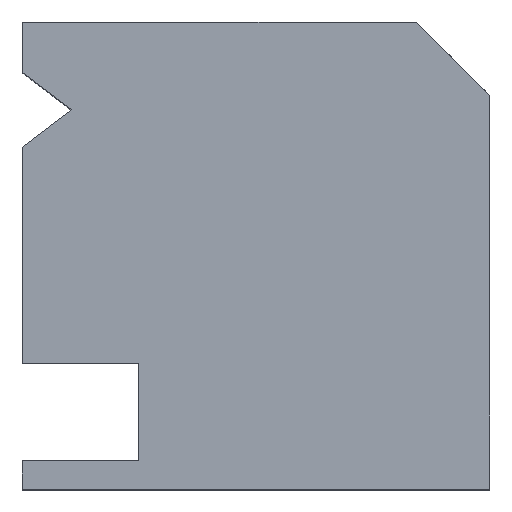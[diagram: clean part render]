
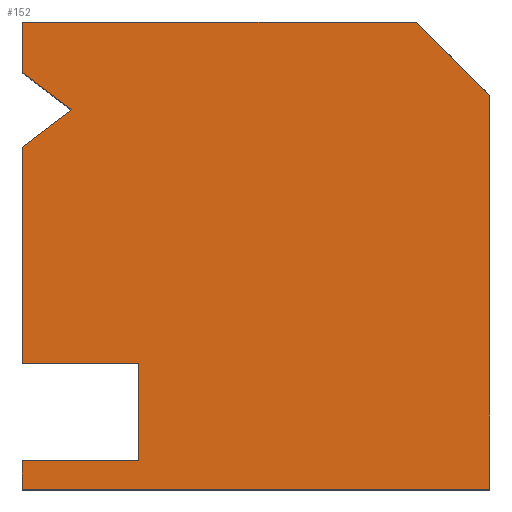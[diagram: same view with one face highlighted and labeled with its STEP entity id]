
A CAD part, top view. The second image highlights one B-rep face of the part: STEP entity #152.
In plain terms, the highlighted planar face has unit normal (0, 0, 1).
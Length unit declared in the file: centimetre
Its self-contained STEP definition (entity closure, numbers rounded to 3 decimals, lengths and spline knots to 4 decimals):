
#11 = VECTOR ( 'NONE', #632, 100. ) ;
#17 = CARTESIAN_POINT ( 'NONE',  ( 1000., 1000., 1000. ) ) ;
#20 = EDGE_CURVE ( 'NONE', #55, #213, #547, .T. ) ;
#34 = ORIENTED_EDGE ( 'NONE', *, *, #370, .T. ) ;
#36 = CARTESIAN_POINT ( 'NONE',  ( 248.9598, 60.6455, 1000. ) ) ;
#55 = VERTEX_POINT ( 'NONE', #183 ) ;
#56 = FACE_OUTER_BOUND ( 'NONE', #332, .T. ) ;
#57 = VERTEX_POINT ( 'NONE', #861 ) ;
#62 = PLANE ( 'NONE',  #907 ) ;
#69 = VECTOR ( 'NONE', #445, 100. ) ;
#92 = EDGE_CURVE ( 'NONE', #132, #954, #846, .T. ) ;
#117 = VERTEX_POINT ( 'NONE', #291 ) ;
#124 = DIRECTION ( 'NONE',  ( 0., -1., 0. ) ) ;
#132 = VERTEX_POINT ( 'NONE', #946 ) ;
#152 = ADVANCED_FACE ( 'NONE', ( #56 ), #62, .T. ) ;
#156 = ORIENTED_EDGE ( 'NONE', *, *, #794, .T. ) ;
#164 = LINE ( 'NONE', #324, #827 ) ;
#165 = ORIENTED_EDGE ( 'NONE', *, *, #668, .T. ) ;
#174 = DIRECTION ( 'NONE',  ( 1., 0., 0. ) ) ;
#177 = CARTESIAN_POINT ( 'NONE',  ( 0., 60.6455, 1000. ) ) ;
#183 = CARTESIAN_POINT ( 'NONE',  ( 0., 269.7926, 1000. ) ) ;
#186 = LINE ( 'NONE', #620, #643 ) ;
#192 = VERTEX_POINT ( 'NONE', #208 ) ;
#208 = CARTESIAN_POINT ( 'NONE',  ( 0., 0., 1000. ) ) ;
#213 = VERTEX_POINT ( 'NONE', #722 ) ;
#214 = LINE ( 'NONE', #514, #342 ) ;
#248 = DIRECTION ( 'NONE',  ( -0.707, 0.707, 0. ) ) ;
#249 = CARTESIAN_POINT ( 'NONE',  ( 0., 732.1818, 1000. ) ) ;
#291 = CARTESIAN_POINT ( 'NONE',  ( 0., 1000., 1000. ) ) ;
#292 = VERTEX_POINT ( 'NONE', #893 ) ;
#300 = ORIENTED_EDGE ( 'NONE', *, *, #464, .T. ) ;
#318 = VERTEX_POINT ( 'NONE', #686 ) ;
#324 = CARTESIAN_POINT ( 'NONE',  ( 0., 0., 1000. ) ) ;
#329 = CARTESIAN_POINT ( 'NONE',  ( 0., 1000., 1000. ) ) ;
#332 = EDGE_LOOP ( 'NONE', ( #800, #674, #425, #665, #589, #156, #34, #300, #165, #857, #367, #837 ) ) ;
#342 = VECTOR ( 'NONE', #124, 100. ) ;
#352 = DIRECTION ( 'NONE',  ( 1., 0., 0. ) ) ;
#363 = VERTEX_POINT ( 'NONE', #249 ) ;
#366 = CARTESIAN_POINT ( 'NONE',  ( 0., 0., 1000. ) ) ;
#367 = ORIENTED_EDGE ( 'NONE', *, *, #933, .T. ) ;
#370 = EDGE_CURVE ( 'NONE', #192, #614, #164, .T. ) ;
#375 = VECTOR ( 'NONE', #779, 100. ) ;
#391 = DIRECTION ( 'NONE',  ( 0., -1., 0. ) ) ;
#400 = LINE ( 'NONE', #36, #11 ) ;
#406 = CARTESIAN_POINT ( 'NONE',  ( 1000., 0., 1000. ) ) ;
#425 = ORIENTED_EDGE ( 'NONE', *, *, #20, .T. ) ;
#444 = VECTOR ( 'NONE', #391, 100. ) ;
#445 = DIRECTION ( 'NONE',  ( -1., 0., 0. ) ) ;
#458 = VECTOR ( 'NONE', #555, 100. ) ;
#463 = EDGE_CURVE ( 'NONE', #733, #292, #561, .T. ) ;
#464 = EDGE_CURVE ( 'NONE', #614, #57, #850, .T. ) ;
#485 = VECTOR ( 'NONE', #498, 100. ) ;
#498 = DIRECTION ( 'NONE',  ( -1., 0., 0. ) ) ;
#514 = CARTESIAN_POINT ( 'NONE',  ( 0., 1000., 1000. ) ) ;
#543 = DIRECTION ( 'NONE',  ( -0.797, -0.604, 0. ) ) ;
#547 = LINE ( 'NONE', #642, #876 ) ;
#555 = DIRECTION ( 'NONE',  ( 0.797, -0.604, 0. ) ) ;
#559 = LINE ( 'NONE', #615, #816 ) ;
#561 = LINE ( 'NONE', #627, #458 ) ;
#576 = EDGE_CURVE ( 'NONE', #318, #117, #718, .T. ) ;
#589 = ORIENTED_EDGE ( 'NONE', *, *, #92, .T. ) ;
#614 = VERTEX_POINT ( 'NONE', #406 ) ;
#615 = CARTESIAN_POINT ( 'NONE',  ( 0., 732.1818, 1000. ) ) ;
#620 = CARTESIAN_POINT ( 'NONE',  ( 921.6625, 921.6625, 1000. ) ) ;
#627 = CARTESIAN_POINT ( 'NONE',  ( 105.6518, 812.2237, 1000. ) ) ;
#632 = DIRECTION ( 'NONE',  ( 0., -1., 0. ) ) ;
#642 = CARTESIAN_POINT ( 'NONE',  ( 0., 269.7926, 1000. ) ) ;
#643 = VECTOR ( 'NONE', #248, 100. ) ;
#647 = CARTESIAN_POINT ( 'NONE',  ( 0., 60.6455, 1000. ) ) ;
#665 = ORIENTED_EDGE ( 'NONE', *, *, #738, .T. ) ;
#668 = EDGE_CURVE ( 'NONE', #57, #318, #186, .T. ) ;
#674 = ORIENTED_EDGE ( 'NONE', *, *, #695, .T. ) ;
#686 = CARTESIAN_POINT ( 'NONE',  ( 843.325, 1000., 1000. ) ) ;
#695 = EDGE_CURVE ( 'NONE', #363, #55, #777, .T. ) ;
#714 = CARTESIAN_POINT ( 'NONE',  ( 0., 892.2656, 1000. ) ) ;
#718 = LINE ( 'NONE', #784, #485 ) ;
#722 = CARTESIAN_POINT ( 'NONE',  ( 248.9598, 269.7926, 1000. ) ) ;
#733 = VERTEX_POINT ( 'NONE', #714 ) ;
#738 = EDGE_CURVE ( 'NONE', #213, #132, #400, .T. ) ;
#767 = CARTESIAN_POINT ( 'NONE',  ( 0., 1000., 1000. ) ) ;
#773 = EDGE_CURVE ( 'NONE', #292, #363, #559, .T. ) ;
#777 = LINE ( 'NONE', #329, #444 ) ;
#779 = DIRECTION ( 'NONE',  ( 0., 1., 0. ) ) ;
#784 = CARTESIAN_POINT ( 'NONE',  ( 0., 1000., 1000. ) ) ;
#785 = DIRECTION ( 'NONE',  ( 0., -1., 0. ) ) ;
#794 = EDGE_CURVE ( 'NONE', #954, #192, #854, .T. ) ;
#800 = ORIENTED_EDGE ( 'NONE', *, *, #773, .T. ) ;
#816 = VECTOR ( 'NONE', #543, 100. ) ;
#827 = VECTOR ( 'NONE', #174, 100. ) ;
#837 = ORIENTED_EDGE ( 'NONE', *, *, #463, .T. ) ;
#846 = LINE ( 'NONE', #177, #69 ) ;
#850 = LINE ( 'NONE', #17, #375 ) ;
#854 = LINE ( 'NONE', #767, #935 ) ;
#857 = ORIENTED_EDGE ( 'NONE', *, *, #576, .T. ) ;
#861 = CARTESIAN_POINT ( 'NONE',  ( 1000., 843.325, 1000. ) ) ;
#876 = VECTOR ( 'NONE', #937, 100. ) ;
#893 = CARTESIAN_POINT ( 'NONE',  ( 105.6518, 812.2237, 1000. ) ) ;
#907 = AXIS2_PLACEMENT_3D ( 'NONE', #366, #961, #352 ) ;
#933 = EDGE_CURVE ( 'NONE', #117, #733, #214, .T. ) ;
#935 = VECTOR ( 'NONE', #785, 100. ) ;
#937 = DIRECTION ( 'NONE',  ( 1., 0., 0. ) ) ;
#946 = CARTESIAN_POINT ( 'NONE',  ( 248.9598, 60.6455, 1000. ) ) ;
#954 = VERTEX_POINT ( 'NONE', #647 ) ;
#961 = DIRECTION ( 'NONE',  ( 0., 0., 1. ) ) ;
